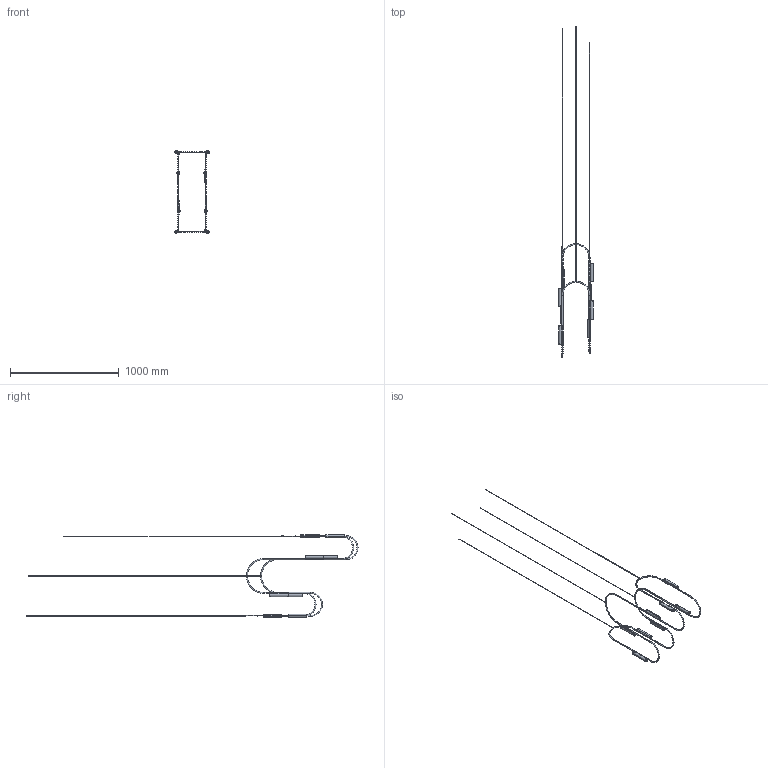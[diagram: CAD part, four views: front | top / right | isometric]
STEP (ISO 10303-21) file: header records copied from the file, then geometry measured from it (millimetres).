
FILE_DESCRIPTION (( 'STEP AP214' ), '1' );
FILE_NAME ('Pop - Pendant Loop B.STEP', '2024-04-08T05:50:49', ( '' ), ( '' ), 'SwSTEP 2.0', 'SolidWorks 2017', '' );
FILE_SCHEMA (( 'AUTOMOTIVE_DESIGN' ));
Length unit declared in the file: millimetre
Products named in the file (1): Pop - Pendant Loop B
Bounding box: 318.1 x 3047.52 x 758.88 mm (x, y, z)
Volume: 1162286.9 mm3; surface area: 748846.8 mm2
Topology: 48 solids, 48 shells, 828 faces, 1744 edges, 1056 vertices
Faces by surface type: cylinder 300, torus 220, plane 140, cone 96, bspline 72
Entity records: 49089 total; most frequent: CARTESIAN_POINT 21437, DIRECTION 4126, ORIENTED_EDGE 3488, AXIS2_PLACEMENT_3D 1869, EDGE_CURVE 1744, CIRCLE 1112, VERTEX_POINT 1056, EDGE_LOOP 912
